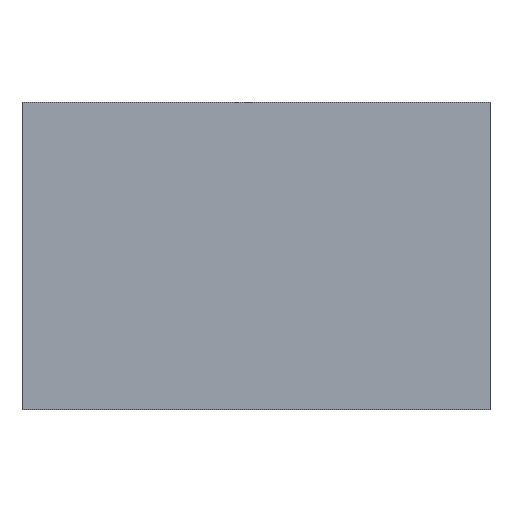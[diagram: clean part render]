
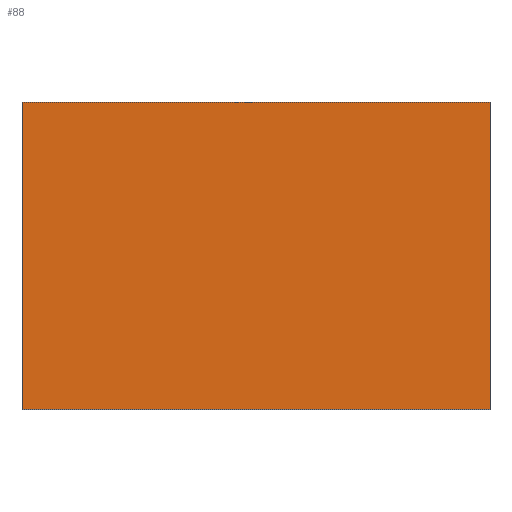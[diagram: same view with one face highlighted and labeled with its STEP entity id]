
A CAD part, top view. The second image highlights one B-rep face of the part: STEP entity #88.
In plain terms, the highlighted planar face has unit normal (0, 0, 1).
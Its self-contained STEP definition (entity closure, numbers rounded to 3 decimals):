
#24 = VERTEX_POINT('',#25);
#25 = CARTESIAN_POINT('',(0.,0.,10.2));
#40 = VERTEX_POINT('',#41);
#41 = CARTESIAN_POINT('',(0.,7.55,10.2));
#47 = EDGE_CURVE('',#24,#40,#48,.T.);
#48 = LINE('',#49,#50);
#49 = CARTESIAN_POINT('',(0.,0.,10.2));
#50 = VECTOR('',#51,1.);
#51 = DIRECTION('',(0.,1.,0.));
#70 = EDGE_CURVE('',#24,#71,#73,.T.);
#71 = VERTEX_POINT('',#72);
#72 = CARTESIAN_POINT('',(11.5,0.,10.2));
#73 = LINE('',#74,#75);
#74 = CARTESIAN_POINT('',(0.,0.,10.2));
#75 = VECTOR('',#76,1.);
#76 = DIRECTION('',(1.,0.,0.));
#88 = ADVANCED_FACE('',(#89),#107,.T.);
#89 = FACE_BOUND('',#90,.T.);
#90 = EDGE_LOOP('',(#91,#92,#93,#101));
#91 = ORIENTED_EDGE('',*,*,#47,.F.);
#92 = ORIENTED_EDGE('',*,*,#70,.T.);
#93 = ORIENTED_EDGE('',*,*,#94,.T.);
#94 = EDGE_CURVE('',#71,#95,#97,.T.);
#95 = VERTEX_POINT('',#96);
#96 = CARTESIAN_POINT('',(11.5,7.55,10.2));
#97 = LINE('',#98,#99);
#98 = CARTESIAN_POINT('',(11.5,0.,10.2));
#99 = VECTOR('',#100,1.);
#100 = DIRECTION('',(0.,1.,0.));
#101 = ORIENTED_EDGE('',*,*,#102,.F.);
#102 = EDGE_CURVE('',#40,#95,#103,.T.);
#103 = LINE('',#104,#105);
#104 = CARTESIAN_POINT('',(0.,7.55,10.2));
#105 = VECTOR('',#106,1.);
#106 = DIRECTION('',(1.,0.,0.));
#107 = PLANE('',#108);
#108 = AXIS2_PLACEMENT_3D('',#109,#110,#111);
#109 = CARTESIAN_POINT('',(0.,0.,10.2));
#110 = DIRECTION('',(0.,0.,1.));
#111 = DIRECTION('',(1.,0.,0.));
